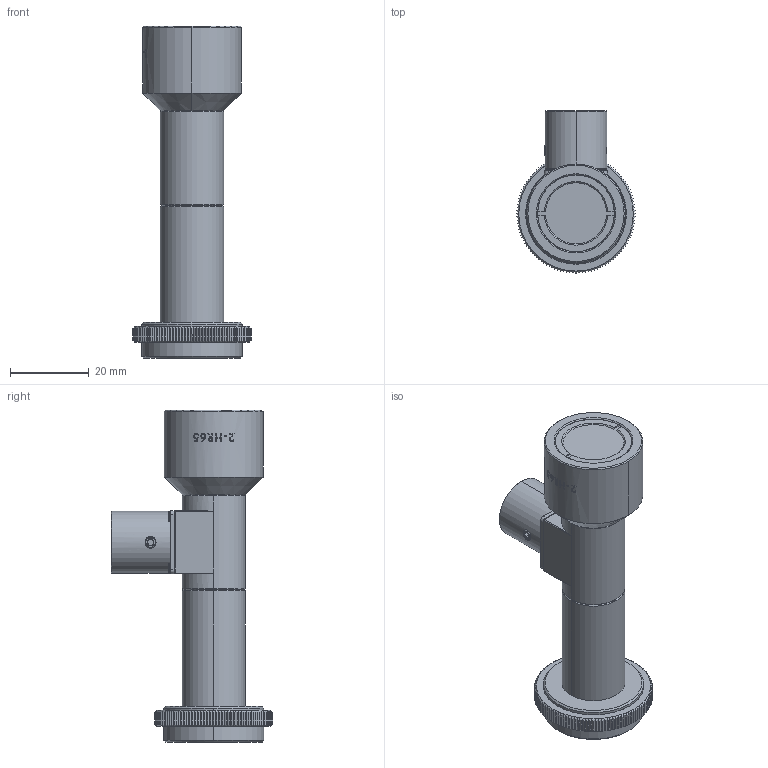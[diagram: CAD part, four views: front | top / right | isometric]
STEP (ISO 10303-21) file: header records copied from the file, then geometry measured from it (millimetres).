
FILE_DESCRIPTION (( 'STEP AP203' ), '1' );
FILE_NAME ('MML2-HR65D_A03410A0000101.STEP', '2012-11-27T02:50:55', ( 'Satoh' ), ( '株式会社モリテックス' ), 'SwSTEP 2.0', 'SolidWorks 2011', '' );
FILE_SCHEMA (( 'CONFIG_CONTROL_DESIGN' ));
Length unit declared in the file: millimetre
Products named in the file (1): MML2-HR65D_A03410A0000101
Bounding box: 30 x 41 x 84.14 mm (x, y, z)
Volume: 22995.7 mm3; surface area: 10185.3 mm2
Topology: 1 solids, 9 shells, 657 faces, 1718 edges, 1085 vertices
Faces by surface type: plane 418, cone 105, cylinder 70, bspline 40, torus 16, sphere 8
Entity records: 24286 total; most frequent: CARTESIAN_POINT 9481, ORIENTED_EDGE 3404, DIRECTION 2587, EDGE_CURVE 1702, VERTEX_POINT 1085, AXIS2_PLACEMENT_3D 1027, B_SPLINE_CURVE_WITH_KNOTS 736, EDGE_LOOP 689
